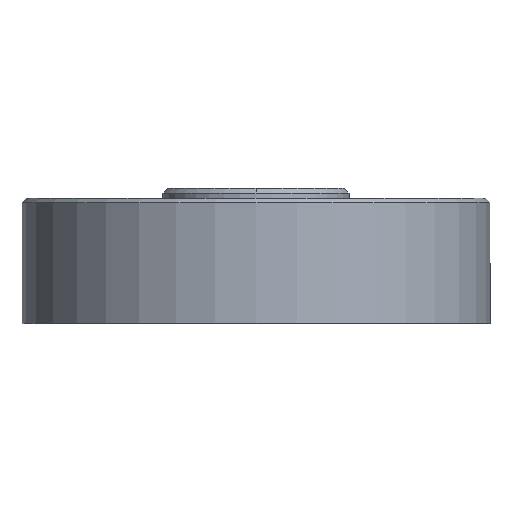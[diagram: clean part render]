
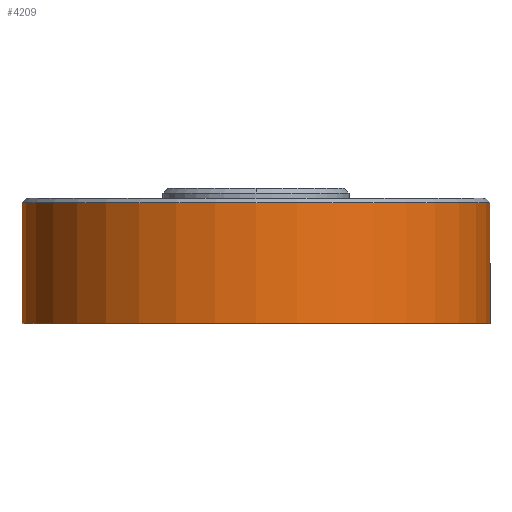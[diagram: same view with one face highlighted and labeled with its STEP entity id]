
A CAD part, left-side view. The second image highlights one B-rep face of the part: STEP entity #4209.
In plain terms, the highlighted cylindrical face has radius 76.975 mm (diameter 153.949 mm), a partial arc.
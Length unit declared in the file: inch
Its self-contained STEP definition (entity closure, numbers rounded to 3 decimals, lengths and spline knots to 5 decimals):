
#199 = CARTESIAN_POINT ( 'NONE',  ( 0., 3.0305, -1.624 ) ) ;
#277 = VERTEX_POINT ( 'NONE', #5636 ) ;
#1122 = CIRCLE ( 'NONE', #1123, 3.0305 ) ;
#1123 = AXIS2_PLACEMENT_3D ( 'NONE', #1124, #1125, #1126 ) ;
#1124 = CARTESIAN_POINT ( 'NONE',  ( 0., 0., -0.06 ) ) ;
#1125 = DIRECTION ( 'NONE',  ( 0., 0., 1. ) ) ;
#1126 = DIRECTION ( 'NONE',  ( -1., 0., 0. ) ) ;
#1512 = CARTESIAN_POINT ( 'NONE',  ( 0., -3.0305, -1.624 ) ) ;
#1675 = LINE ( 'NONE', #1676, #1677 ) ;
#1676 = CARTESIAN_POINT ( 'NONE',  ( 0., -3.0305, -0.06 ) ) ;
#1677 = VECTOR ( 'NONE', #1678, 39.37008 ) ;
#1678 = DIRECTION ( 'NONE',  ( 0., 0., -1. ) ) ;
#2008 = FACE_OUTER_BOUND ( 'NONE', #4187, .T. ) ;
#2009 = CYLINDRICAL_SURFACE ( 'NONE', #2010, 3.0305 ) ;
#2010 = AXIS2_PLACEMENT_3D ( 'NONE', #2011, #2012, #2013 ) ;
#2011 = CARTESIAN_POINT ( 'NONE',  ( 0., 0., -0.06 ) ) ;
#2012 = DIRECTION ( 'NONE',  ( 0., 0., -1. ) ) ;
#2013 = DIRECTION ( 'NONE',  ( 0., 1., 0. ) ) ;
#2106 = CARTESIAN_POINT ( 'NONE',  ( 0., -3.0305, -0.06 ) ) ;
#3255 = EDGE_CURVE ( 'NONE', #277, #3791, #7357, .T. ) ;
#3789 = ORIENTED_EDGE ( 'NONE', *, *, #4765, .T. ) ;
#3791 = VERTEX_POINT ( 'NONE', #199 ) ;
#3854 = ORIENTED_EDGE ( 'NONE', *, *, #4655, .T. ) ;
#3923 = ORIENTED_EDGE ( 'NONE', *, *, #3255, .T. ) ;
#3993 = EDGE_CURVE ( 'NONE', #277, #5598, #1122, .T. ) ;
#4041 = ORIENTED_EDGE ( 'NONE', *, *, #3993, .F. ) ;
#4085 = VERTEX_POINT ( 'NONE', #1512 ) ;
#4112 = ORIENTED_EDGE ( 'NONE', *, *, #4117, .F. ) ;
#4117 = EDGE_CURVE ( 'NONE', #5598, #4085, #1675, .T. ) ;
#4187 = EDGE_LOOP ( 'NONE', ( #4112, #4041, #3923, #3854, #3789 ) ) ;
#4209 = ADVANCED_FACE ( 'NONE', ( #2008 ), #2009, .T. ) ;
#4655 = EDGE_CURVE ( 'NONE', #3791, #4772, #6097, .T. ) ;
#4765 = EDGE_CURVE ( 'NONE', #4772, #4085, #6638, .T. ) ;
#4772 = VERTEX_POINT ( 'NONE', #6655 ) ;
#5598 = VERTEX_POINT ( 'NONE', #2106 ) ;
#5636 = CARTESIAN_POINT ( 'NONE',  ( 0., 3.0305, -0.06 ) ) ;
#6097 = CIRCLE ( 'NONE', #6098, 3.0305 ) ;
#6098 = AXIS2_PLACEMENT_3D ( 'NONE', #6099, #6100, #6101 ) ;
#6099 = CARTESIAN_POINT ( 'NONE',  ( 0., 0., -1.624 ) ) ;
#6100 = DIRECTION ( 'NONE',  ( 0., 0., 1. ) ) ;
#6101 = DIRECTION ( 'NONE',  ( 0., 1., 0. ) ) ;
#6638 = CIRCLE ( 'NONE', #6639, 3.0305 ) ;
#6639 = AXIS2_PLACEMENT_3D ( 'NONE', #6640, #6641, #6642 ) ;
#6640 = CARTESIAN_POINT ( 'NONE',  ( 0., 0., -1.624 ) ) ;
#6641 = DIRECTION ( 'NONE',  ( 0., 0., 1. ) ) ;
#6642 = DIRECTION ( 'NONE',  ( 0., 1., 0. ) ) ;
#6655 = CARTESIAN_POINT ( 'NONE',  ( -3.0305, 0., -1.624 ) ) ;
#7357 = LINE ( 'NONE', #7358, #7359 ) ;
#7358 = CARTESIAN_POINT ( 'NONE',  ( 0., 3.0305, -0.06 ) ) ;
#7359 = VECTOR ( 'NONE', #7360, 39.37008 ) ;
#7360 = DIRECTION ( 'NONE',  ( 0., 0., -1. ) ) ;
